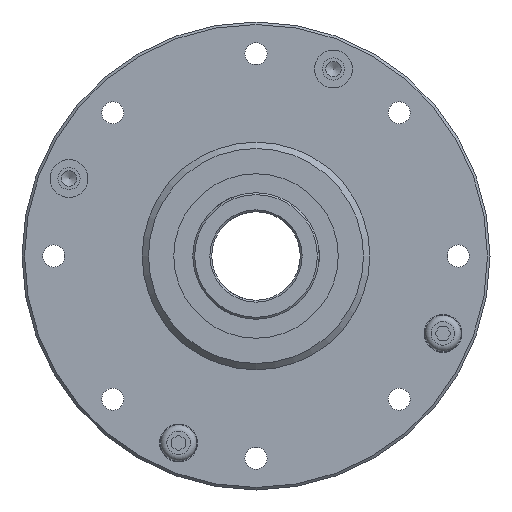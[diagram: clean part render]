
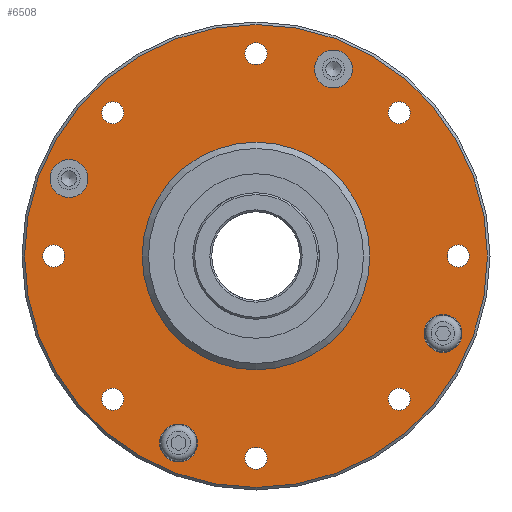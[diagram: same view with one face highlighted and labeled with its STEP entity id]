
A CAD part, front view. The second image highlights one B-rep face of the part: STEP entity #6508.
In plain terms, the highlighted planar face has unit normal (0, -1, 0).
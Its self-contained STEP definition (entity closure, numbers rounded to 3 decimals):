
#675=PLANE('',#8971);
#933=FACE_OUTER_BOUND('',#2013,.T.);
#2009=EDGE_LOOP('',(#3113));
#2010=EDGE_LOOP('',(#3114));
#2011=EDGE_LOOP('',(#3115));
#2012=EDGE_LOOP('',(#3116));
#2013=EDGE_LOOP('',(#3117));
#2014=EDGE_LOOP('',(#3118));
#2015=EDGE_LOOP('',(#3119));
#2016=EDGE_LOOP('',(#3120));
#2017=EDGE_LOOP('',(#3121));
#2018=EDGE_LOOP('',(#3122));
#2019=EDGE_LOOP('',(#3123));
#2020=EDGE_LOOP('',(#3124));
#2021=EDGE_LOOP('',(#3125));
#2022=EDGE_LOOP('',(#3126));
#3113=ORIENTED_EDGE('',*,*,#4400,.T.);
#3114=ORIENTED_EDGE('',*,*,#4401,.T.);
#3115=ORIENTED_EDGE('',*,*,#4402,.T.);
#3116=ORIENTED_EDGE('',*,*,#4403,.T.);
#3117=ORIENTED_EDGE('',*,*,#4404,.T.);
#3118=ORIENTED_EDGE('',*,*,#4380,.F.);
#3119=ORIENTED_EDGE('',*,*,#4382,.F.);
#3120=ORIENTED_EDGE('',*,*,#4384,.F.);
#3121=ORIENTED_EDGE('',*,*,#4386,.F.);
#3122=ORIENTED_EDGE('',*,*,#4388,.F.);
#3123=ORIENTED_EDGE('',*,*,#4390,.F.);
#3124=ORIENTED_EDGE('',*,*,#4392,.F.);
#3125=ORIENTED_EDGE('',*,*,#4405,.F.);
#3126=ORIENTED_EDGE('',*,*,#4406,.F.);
#4380=EDGE_CURVE('',#7927,#7927,#5152,.T.);
#4382=EDGE_CURVE('',#7929,#7929,#5154,.T.);
#4384=EDGE_CURVE('',#7931,#7931,#5156,.T.);
#4386=EDGE_CURVE('',#7933,#7933,#5158,.T.);
#4388=EDGE_CURVE('',#7935,#7935,#5160,.T.);
#4390=EDGE_CURVE('',#7937,#7937,#5162,.T.);
#4392=EDGE_CURVE('',#7939,#7939,#5164,.T.);
#4400=EDGE_CURVE('',#7947,#7947,#5172,.T.);
#4401=EDGE_CURVE('',#7948,#7948,#5173,.T.);
#4402=EDGE_CURVE('',#7949,#7949,#5174,.T.);
#4403=EDGE_CURVE('',#7950,#7950,#5175,.T.);
#4404=EDGE_CURVE('',#7951,#7951,#5176,.T.);
#4405=EDGE_CURVE('',#7952,#7952,#5177,.T.);
#4406=EDGE_CURVE('',#7953,#7953,#5178,.T.);
#5152=CIRCLE('',#8936,1.75);
#5154=CIRCLE('',#8939,1.75);
#5156=CIRCLE('',#8942,1.75);
#5158=CIRCLE('',#8945,1.75);
#5160=CIRCLE('',#8948,1.75);
#5162=CIRCLE('',#8951,1.75);
#5164=CIRCLE('',#8954,1.75);
#5172=CIRCLE('',#8964,3.);
#5173=CIRCLE('',#8965,3.);
#5174=CIRCLE('',#8966,3.);
#5175=CIRCLE('',#8967,3.);
#5176=CIRCLE('',#8968,36.6);
#5177=CIRCLE('',#8969,1.75);
#5178=CIRCLE('',#8970,18.);
#6508=ADVANCED_FACE('',(#7317,#7318,#7319,#7320,#933,#7321,#7322,#7323,#7324,
#7325,#7326,#7327,#7328,#7329),#675,.T.);
#7317=FACE_BOUND('',#2009,.T.);
#7318=FACE_BOUND('',#2010,.T.);
#7319=FACE_BOUND('',#2011,.T.);
#7320=FACE_BOUND('',#2012,.T.);
#7321=FACE_BOUND('',#2014,.T.);
#7322=FACE_BOUND('',#2015,.T.);
#7323=FACE_BOUND('',#2016,.T.);
#7324=FACE_BOUND('',#2017,.T.);
#7325=FACE_BOUND('',#2018,.T.);
#7326=FACE_BOUND('',#2019,.T.);
#7327=FACE_BOUND('',#2020,.T.);
#7328=FACE_BOUND('',#2021,.T.);
#7329=FACE_BOUND('',#2022,.T.);
#7927=VERTEX_POINT('',#13173);
#7929=VERTEX_POINT('',#13178);
#7931=VERTEX_POINT('',#13183);
#7933=VERTEX_POINT('',#13188);
#7935=VERTEX_POINT('',#13193);
#7937=VERTEX_POINT('',#13198);
#7939=VERTEX_POINT('',#13203);
#7947=VERTEX_POINT('',#13221);
#7948=VERTEX_POINT('',#13223);
#7949=VERTEX_POINT('',#13225);
#7950=VERTEX_POINT('',#13227);
#7951=VERTEX_POINT('',#13229);
#7952=VERTEX_POINT('',#13231);
#7953=VERTEX_POINT('',#13233);
#8936=AXIS2_PLACEMENT_3D('',#13172,#10846,#10847);
#8939=AXIS2_PLACEMENT_3D('',#13177,#10852,#10853);
#8942=AXIS2_PLACEMENT_3D('',#13182,#10858,#10859);
#8945=AXIS2_PLACEMENT_3D('',#13187,#10864,#10865);
#8948=AXIS2_PLACEMENT_3D('',#13192,#10870,#10871);
#8951=AXIS2_PLACEMENT_3D('',#13197,#10876,#10877);
#8954=AXIS2_PLACEMENT_3D('',#13202,#10882,#10883);
#8964=AXIS2_PLACEMENT_3D('',#13220,#10902,#10903);
#8965=AXIS2_PLACEMENT_3D('',#13222,#10904,#10905);
#8966=AXIS2_PLACEMENT_3D('',#13224,#10906,#10907);
#8967=AXIS2_PLACEMENT_3D('',#13226,#10908,#10909);
#8968=AXIS2_PLACEMENT_3D('',#13228,#10910,#10911);
#8969=AXIS2_PLACEMENT_3D('',#13230,#10912,#10913);
#8970=AXIS2_PLACEMENT_3D('',#13232,#10914,#10915);
#8971=AXIS2_PLACEMENT_3D('',#13234,#10916,#10917);
#10846=DIRECTION('',(0.,-1.,0.));
#10847=DIRECTION('',(0.707,0.,0.707));
#10852=DIRECTION('',(0.,-1.,0.));
#10853=DIRECTION('',(0.,0.,1.));
#10858=DIRECTION('',(0.,-1.,0.));
#10859=DIRECTION('',(-0.707,0.,0.707));
#10864=DIRECTION('',(0.,-1.,0.));
#10865=DIRECTION('',(-1.,0.,0.));
#10870=DIRECTION('',(0.,-1.,0.));
#10871=DIRECTION('',(-0.707,0.,-0.707));
#10876=DIRECTION('',(0.,-1.,0.));
#10877=DIRECTION('',(0.,0.,-1.));
#10882=DIRECTION('',(0.,-1.,0.));
#10883=DIRECTION('',(0.707,0.,-0.707));
#10902=DIRECTION('',(0.,1.,0.));
#10903=DIRECTION('',(-1.,0.,0.));
#10904=DIRECTION('',(0.,1.,0.));
#10905=DIRECTION('',(-1.,0.,0.));
#10906=DIRECTION('',(0.,1.,0.));
#10907=DIRECTION('',(-1.,0.,0.));
#10908=DIRECTION('',(0.,1.,0.));
#10909=DIRECTION('',(-1.,0.,0.));
#10910=DIRECTION('',(0.,-1.,0.));
#10911=DIRECTION('',(1.,0.,0.));
#10912=DIRECTION('',(0.,-1.,0.));
#10913=DIRECTION('',(1.,0.,0.));
#10914=DIRECTION('',(0.,-1.,0.));
#10915=DIRECTION('',(1.,0.,0.));
#10916=DIRECTION('',(0.,-1.,0.));
#10917=DIRECTION('',(1.,0.,0.));
#13172=CARTESIAN_POINT('',(-22.627,-27.5,22.627));
#13173=CARTESIAN_POINT('',(-21.39,-27.5,23.865));
#13177=CARTESIAN_POINT('',(-32.,-27.5,0.));
#13178=CARTESIAN_POINT('',(-32.,-27.5,1.75));
#13182=CARTESIAN_POINT('',(-22.627,-27.5,-22.627));
#13183=CARTESIAN_POINT('',(-23.865,-27.5,-21.39));
#13187=CARTESIAN_POINT('',(0.,-27.5,-32.));
#13188=CARTESIAN_POINT('',(-1.75,-27.5,-32.));
#13192=CARTESIAN_POINT('',(22.627,-27.5,-22.627));
#13193=CARTESIAN_POINT('',(21.39,-27.5,-23.865));
#13197=CARTESIAN_POINT('',(32.,-27.5,0.));
#13198=CARTESIAN_POINT('',(32.,-27.5,-1.75));
#13202=CARTESIAN_POINT('',(22.627,-27.5,22.627));
#13203=CARTESIAN_POINT('',(23.865,-27.5,21.39));
#13220=CARTESIAN_POINT('',(-29.564,-27.5,12.246));
#13221=CARTESIAN_POINT('',(-32.564,-27.5,12.246));
#13222=CARTESIAN_POINT('',(29.564,-27.5,-12.246));
#13223=CARTESIAN_POINT('',(26.564,-27.5,-12.246));
#13224=CARTESIAN_POINT('',(-12.246,-27.5,-29.564));
#13225=CARTESIAN_POINT('',(-15.246,-27.5,-29.564));
#13226=CARTESIAN_POINT('',(12.246,-27.5,29.564));
#13227=CARTESIAN_POINT('',(9.246,-27.5,29.564));
#13228=CARTESIAN_POINT('',(0.,-27.5,0.));
#13229=CARTESIAN_POINT('',(36.6,-27.5,0.));
#13230=CARTESIAN_POINT('',(0.,-27.5,32.));
#13231=CARTESIAN_POINT('',(1.75,-27.5,32.));
#13232=CARTESIAN_POINT('',(0.,-27.5,0.));
#13233=CARTESIAN_POINT('',(18.,-27.5,0.));
#13234=CARTESIAN_POINT('',(-18.,-27.5,0.));
